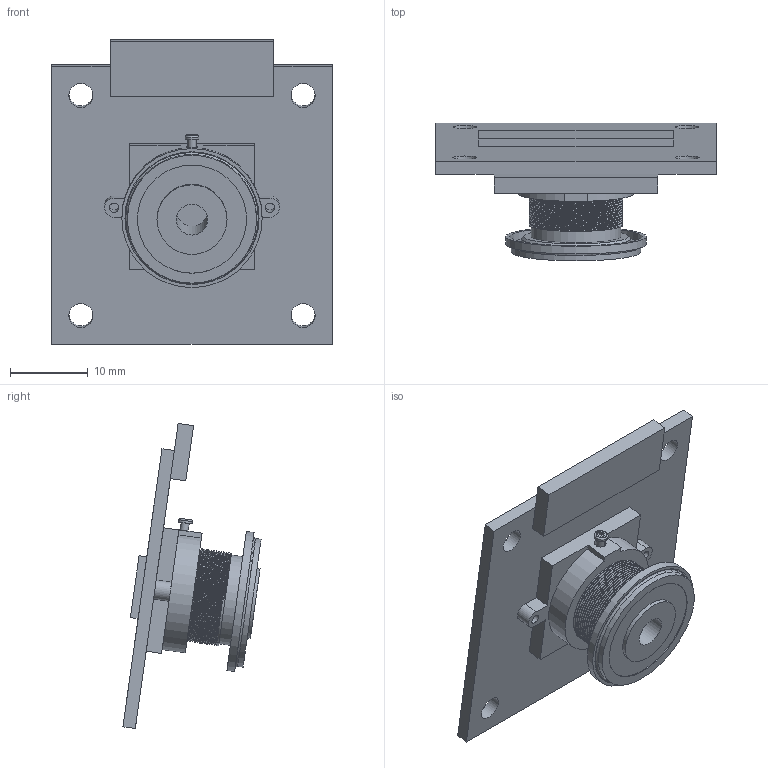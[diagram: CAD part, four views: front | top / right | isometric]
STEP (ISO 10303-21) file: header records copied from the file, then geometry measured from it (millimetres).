
FILE_DESCRIPTION(/* description */ ('STEP AP242 Edition 2','CAx-IF Rec.Pracs.---Representation and Presentation of Product Manufacturing Information (PMI)---4.0---2014-10-13','CAx-IF Rec.Pracs.---3D Tessellated Geometry---0.4---2014-09-14','2;1','CAx-IF Rec.Pracs.---User Defined Attributes---1.5---2016-08-15'),/* implementation_level */ '2;1');
FILE_NAME(/* name */ 'Assy_ForMFG - Left_CAM',/* time_stamp */ '2026-05-15T19:56:54Z',/* author */ (''),/* organization */ (''),/* preprocessor_version */ 'ST-DEVELOPER v20',/* originating_system */ 'ONSHAPE BY PTC INC, 1.215',/* authorisation */ ' ');
FILE_SCHEMA (('AP242_MANAGED_MODEL_BASED_3D_ENGINEERING_MIM_LF { 1 0 10303 442 3 1 4 }'));
Length unit declared in the file: metre
Products named in the file (1): Left_CAM
Bounding box: 36 x 17.72 x 39.12 mm (x, y, z)
Volume: 4504.4 mm3; surface area: 4372.5 mm2
Topology: 1 solids, 1 shells, 86 faces, 198 edges, 131 vertices
Faces by surface type: plane 59, cylinder 21, torus 2, cone 2, bspline 2
Full cylindrical faces by diameter (mm): 1.033 x1, 1.2 x2, 1.5 x1, 1.772 x1, 3.1 x4, 4 x1, 9 x1, 11.5 x1, 14 x2, 17 x1, 18 x1
Entity records: 9258 total; most frequent: CARTESIAN_POINT 7338, DIRECTION 384, ORIENTED_EDGE 348, EDGE_CURVE 174, EDGE_LOOP 131, FACE_BOUND 131, AXIS2_PLACEMENT_3D 131, VERTEX_POINT 127
